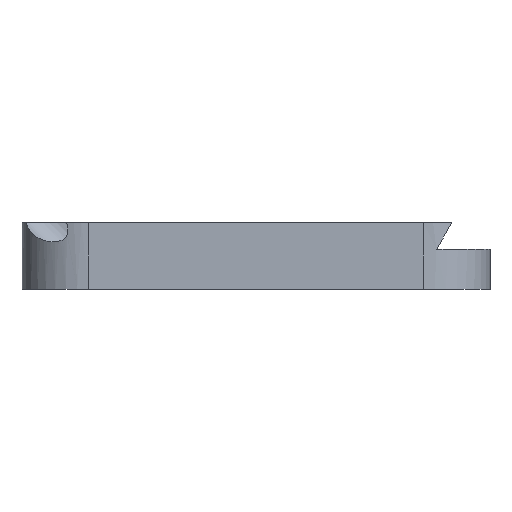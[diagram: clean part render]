
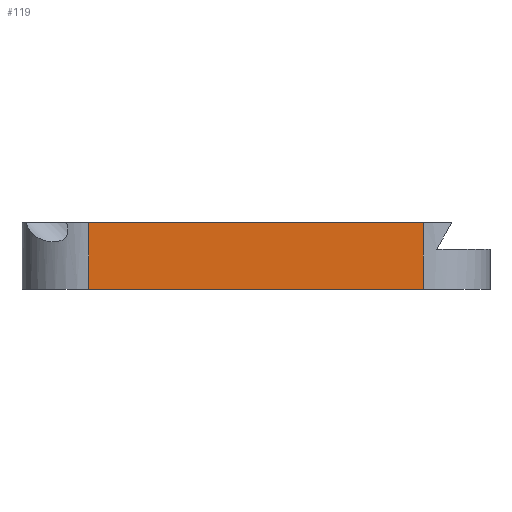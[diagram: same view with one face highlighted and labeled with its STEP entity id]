
A CAD part, left-side view. The second image highlights one B-rep face of the part: STEP entity #119.
In plain terms, the highlighted planar face has unit normal (-1, 0, 0).
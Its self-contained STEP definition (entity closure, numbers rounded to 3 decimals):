
#1 = CARTESIAN_POINT ( 'NONE',  ( -15., 80., 10. ) ) ;
#76 = CARTESIAN_POINT ( 'NONE',  ( -15., 130., 0. ) ) ;
#107 = VERTEX_POINT ( 'NONE', #302 ) ;
#119 = ADVANCED_FACE ( 'NONE', ( #292 ), #2254, .F. ) ;
#129 = CARTESIAN_POINT ( 'NONE',  ( -15., 0., 10. ) ) ;
#292 = FACE_OUTER_BOUND ( 'NONE', #2034, .T. ) ;
#302 = CARTESIAN_POINT ( 'NONE',  ( -15., 130., 10. ) ) ;
#337 = CARTESIAN_POINT ( 'NONE',  ( -15., 0., 0. ) ) ;
#458 = EDGE_CURVE ( 'NONE', #107, #1883, #2239, .T. ) ;
#460 = ORIENTED_EDGE ( 'NONE', *, *, #557, .T. ) ;
#502 = DIRECTION ( 'NONE',  ( 0., -1., 0. ) ) ;
#556 = VECTOR ( 'NONE', #1431, 1000. ) ;
#557 = EDGE_CURVE ( 'NONE', #1883, #1691, #1657, .T. ) ;
#715 = ORIENTED_EDGE ( 'NONE', *, *, #1701, .F. ) ;
#731 = LINE ( 'NONE', #1411, #1573 ) ;
#868 = CARTESIAN_POINT ( 'NONE',  ( -15., 80., 0. ) ) ;
#874 = DIRECTION ( 'NONE',  ( 0., -1., 0. ) ) ;
#912 = ORIENTED_EDGE ( 'NONE', *, *, #458, .T. ) ;
#1034 = LINE ( 'NONE', #1, #556 ) ;
#1182 = CARTESIAN_POINT ( 'NONE',  ( -15., 80., 10. ) ) ;
#1197 = AXIS2_PLACEMENT_3D ( 'NONE', #129, #2262, #1204 ) ;
#1204 = DIRECTION ( 'NONE',  ( 0., 0., -1. ) ) ;
#1299 = VERTEX_POINT ( 'NONE', #1182 ) ;
#1303 = VECTOR ( 'NONE', #1900, 1000. ) ;
#1411 = CARTESIAN_POINT ( 'NONE',  ( -15., 0., 10. ) ) ;
#1431 = DIRECTION ( 'NONE',  ( 0., 0., 1. ) ) ;
#1573 = VECTOR ( 'NONE', #874, 1000. ) ;
#1657 = LINE ( 'NONE', #337, #2135 ) ;
#1691 = VERTEX_POINT ( 'NONE', #868 ) ;
#1701 = EDGE_CURVE ( 'NONE', #107, #1299, #731, .T. ) ;
#1757 = EDGE_CURVE ( 'NONE', #1691, #1299, #1034, .T. ) ;
#1796 = ORIENTED_EDGE ( 'NONE', *, *, #1757, .T. ) ;
#1883 = VERTEX_POINT ( 'NONE', #76 ) ;
#1900 = DIRECTION ( 'NONE',  ( 0., 0., -1. ) ) ;
#2034 = EDGE_LOOP ( 'NONE', ( #460, #1796, #715, #912 ) ) ;
#2085 = CARTESIAN_POINT ( 'NONE',  ( -15., 130., 10. ) ) ;
#2135 = VECTOR ( 'NONE', #502, 1000. ) ;
#2239 = LINE ( 'NONE', #2085, #1303 ) ;
#2254 = PLANE ( 'NONE',  #1197 ) ;
#2262 = DIRECTION ( 'NONE',  ( 1., 0., 0. ) ) ;
